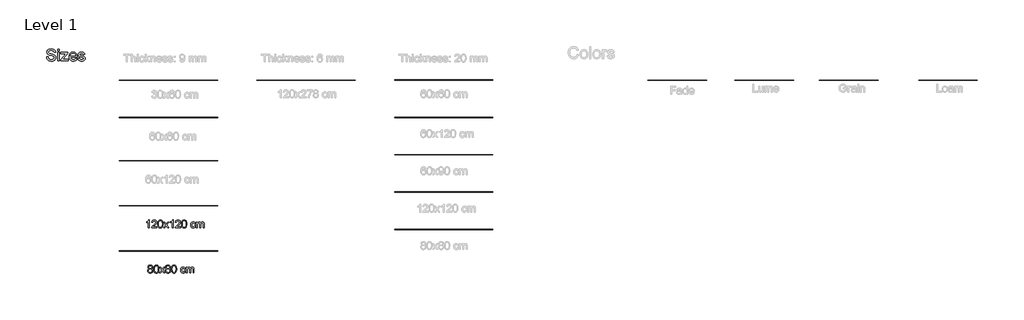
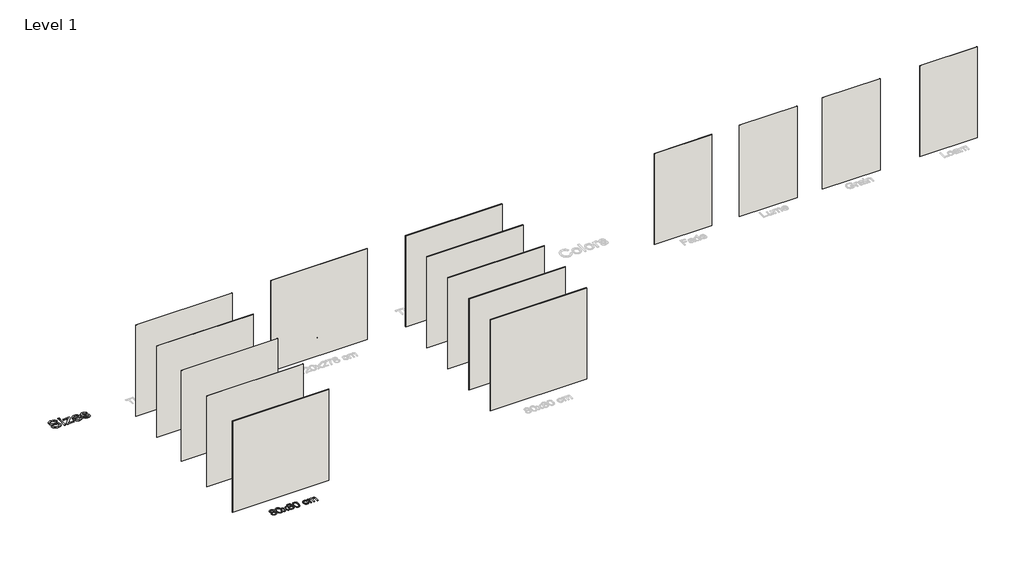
# One storey, part 1 of 7: 15 walls, 3 proxies.
"""IFC4 building model written with IfcOpenShell, lengths in millimetres."""

from ifc_helpers import new_model, si_unit, origin, origin_with_axes, place, context, project, spatial, polyline, outline, extrude, element, save

model = new_model("IFC4")

# Units and contexts
model_context = context("Model", 3, world=origin())
ifc_project = project(units=[si_unit("LENGTHUNIT", "METRE", prefix="MILLI")], contexts=[model_context])

# Site, building, storey
site = spatial("IfcSite", under=ifc_project)
building = spatial("IfcBuilding", under=site)
storey = spatial("IfcBuildingStorey", under=building, Name="Level 1", Elevation=0.0)

# Proxies
placement = place(None, origin())
element("IfcBuildingElementProxy", 1, Name="400mm Arial", ObjectType="400mm Arial", at=placement, inside=storey, context=model_context, shape_type="SweptSolid", body=[
    extrude(outline(polyline([(-14915.9447638, 3182.3518972), (-14966.1729189, 3182.3518972), (-14966.1729189, 3495.4930515), (-14987.1421926, 3478.5336915), (-15013.7523236, 3461.598857), (-15066.629229, 3436.2395248), (-15066.629229, 3483.7208277), (-15027.1800164, 3505.1806107), (-14993.003779, 3530.7116212), (-14966.0625543, 3557.8613124), (-14948.3183794, 3584.1771378), (-14915.9447638, 3584.1771378), (-14915.9447638, 3182.3518972)])), origin_with_axes(), (0.0, 0.0, 1.0), 5.0),
    extrude(outline(polyline([(-14539.2336007, 3232.5800523), (-14539.2336007, 3182.3518972), (-14802.9314149, 3182.3518972), (-14801.8277689, 3200.0347585), (-14797.5358123, 3216.9818557), (-14785.138189, 3244.0457078), (-14766.9770812, 3270.3002195), (-14740.7225695, 3297.7810046), (-14704.0447346, 3328.5236766), (-14649.8557167, 3376.6671671), (-14617.3717365, 3412.2045678), (-14601.1481405, 3441.0465162), (-14595.7402752, 3469.1036497), (-14600.8538349, 3494.2545155), (-14616.1945141, 3515.1624755), (-14639.77575, 3529.2523559), (-14669.6109798, 3533.9489827), (-14700.9422631, 3529.3627205), (-14725.2837884, 3515.6039339), (-14740.9923496, 3493.7517434), (-14746.4247404, 3464.8852695), (-14796.6528955, 3471.1637889), (-14792.3333477, 3497.0933382), (-14784.4760014, 3519.7487377), (-14773.0808566, 3539.1299875), (-14758.1479133, 3555.2370875), (-14740.020528, 3567.8983595), (-14719.0420572, 3576.9421252), (-14695.212501, 3582.3683847), (-14668.5318593, 3584.1771378), (-14641.6120943, 3582.1660496), (-14617.6537794, 3576.1327849), (-14596.6569145, 3566.0773437), (-14578.6214997, 3551.999726), (-14564.1361461, 3534.9422641), (-14553.789465, 3515.9472904), (-14547.5814563, 3495.0148049), (-14545.5121201, 3472.1448076), (-14547.7439375, 3448.1221133), (-14554.4393899, 3424.5163519), (-14566.3219783, 3400.5059204), (-14584.1152041, 3375.2692155), (-14612.478906, 3345.1396801), (-14656.0729224, 3306.4507569), (-14713.8549211, 3258.1355882), (-14736.516452, 3232.5800523), (-14539.2336007, 3232.5800523)])), origin_with_axes(), (0.0, 0.0, 1.0), 5.0),
    extrude(outline(polyline([(-14489.0054456, 3380.027156), (-14485.314363, 3444.3451914), (-14474.2411149, 3495.6402043), (-14455.8960661, 3534.6970095), (-14444.0380031, 3549.9303897), (-14430.3895811, 3562.3004218), (-14414.9048148, 3571.8714851), (-14397.5377189, 3578.7079588), (-14357.1565386, 3584.1771378), (-14326.2054, 3580.9397763), (-14298.4916231, 3571.2276916), (-14275.3150574, 3555.4210285), (-14257.9755527, 3533.8999318), (-14244.8789536, 3506.8483424), (-14234.431105, 3474.4502014), (-14227.5884999, 3433.3087316), (-14225.3076315, 3380.027156), (-14228.961926, 3316.0770025), (-14239.9248094, 3264.9046169), (-14258.1594937, 3225.8110236), (-14269.9899655, 3210.531658), (-14283.6291905, 3198.0972466), (-14299.1323509, 3188.461804), (-14316.554629, 3181.579345), (-14357.1565386, 3176.0733778), (-14384.8212646, 3178.4646108), (-14409.346731, 3185.6383097), (-14430.7329376, 3197.5944746), (-14448.9798846, 3214.3331053), (-14466.4910675, 3244.5913994), (-14478.9990554, 3282.2931726), (-14486.5038481, 3327.4384247), (-14489.0054456, 3380.027156)]), holes=[polyline([(-14438.7772906, 3380.1252578), (-14437.3057626, 3336.4607307), (-14432.8911786, 3301.116468), (-14425.5335387, 3274.0924698), (-14415.2328429, 3255.388736), (-14402.773906, 3242.6630846), (-14388.941543, 3233.5733337), (-14373.7357538, 3228.1194831), (-14357.1565386, 3226.3015329), (-14340.5773233, 3228.1256145), (-14325.3715342, 3233.5978591), (-14311.5391712, 3242.7182669), (-14299.0802343, 3255.4868379), (-14288.7795384, 3274.2212285), (-14281.4218985, 3301.2390953), (-14277.0073146, 3336.5404384), (-14275.5357866, 3380.1252578), (-14276.9582636, 3422.6340224), (-14281.2256948, 3457.3559513), (-14288.33808, 3484.2910448), (-14298.2954193, 3503.4393026), (-14310.5458898, 3516.7872877), (-14324.5376683, 3526.3215627), (-14340.270755, 3532.0421277), (-14357.7451498, 3533.9489827), (-14374.2385259, 3532.2689883), (-14389.1867976, 3527.229005), (-14402.589965, 3518.8290327), (-14414.448028, 3507.0690716), (-14425.0920803, 3486.2224252), (-14432.6949749, 3458.1162408), (-14437.2567117, 3422.7505183), (-14438.7772906, 3380.1252578)])]), origin_with_axes(), (0.0, 0.0, 1.0), 5.0),
    extrude(outline(polyline([(-14200.193554, 3182.3518972), (-14092.8701132, 3330.7800195), (-14193.9150346, 3477.4423083), (-14133.6804892, 3477.4423083), (-14084.9238621, 3406.7108633), (-14062.0661275, 3373.454331), (-14042.2495507, 3400.7266496), (-13986.7238949, 3477.4423083), (-13926.2931458, 3477.4423083), (-14032.4393642, 3330.6819177), (-13930.2172204, 3182.3518972), (-13990.5498676, 3182.3518972), (-14052.1578391, 3271.6245947), (-14063.3414518, 3288.0076062), (-14139.7628049, 3182.3518972), (-14200.193554, 3182.3518972)])), origin_with_axes(), (0.0, 0.0, 1.0), 5.0),
    extrude(outline(polyline([(-13710.469042, 3182.3518972), (-13760.6971971, 3182.3518972), (-13760.6971971, 3495.4930515), (-13781.6664708, 3478.5336915), (-13808.2766018, 3461.598857), (-13861.1535072, 3436.2395248), (-13861.1535072, 3483.7208277), (-13821.7042946, 3505.1806107), (-13787.5280572, 3530.7116212), (-13760.5868325, 3557.8613124), (-13742.8426576, 3584.1771378), (-13710.469042, 3584.1771378), (-13710.469042, 3182.3518972)])), origin_with_axes(), (0.0, 0.0, 1.0), 5.0),
    extrude(outline(polyline([(-13333.7578789, 3232.5800523), (-13333.7578789, 3182.3518972), (-13597.4556931, 3182.3518972), (-13596.3520471, 3200.0347585), (-13592.0600905, 3216.9818557), (-13579.6624672, 3244.0457078), (-13561.5013594, 3270.3002195), (-13535.2468477, 3297.7810046), (-13498.5690128, 3328.5236766), (-13444.3799949, 3376.6671671), (-13411.8960147, 3412.2045678), (-13395.6724187, 3441.0465162), (-13390.2645534, 3469.1036497), (-13395.3781131, 3494.2545155), (-13410.7187923, 3515.1624755), (-13434.3000282, 3529.2523559), (-13464.135258, 3533.9489827), (-13495.4665413, 3529.3627205), (-13519.8080666, 3515.6039339), (-13535.5166278, 3493.7517434), (-13540.9490186, 3464.8852695), (-13591.1771737, 3471.1637889), (-13586.8576259, 3497.0933382), (-13579.0002796, 3519.7487377), (-13567.6051348, 3539.1299875), (-13552.6721915, 3555.2370875), (-13534.5448062, 3567.8983595), (-13513.5663354, 3576.9421252), (-13489.7367792, 3582.3683847), (-13463.0561375, 3584.1771378), (-13436.1363725, 3582.1660496), (-13412.1780576, 3576.1327849), (-13391.1811927, 3566.0773437), (-13373.1457779, 3551.999726), (-13358.6604243, 3534.9422641), (-13348.3137432, 3515.9472904), (-13342.1057345, 3495.0148049), (-13340.0363983, 3472.1448076), (-13342.2682157, 3448.1221133), (-13348.9636681, 3424.5163519), (-13360.8462565, 3400.5059204), (-13378.6394823, 3375.2692155), (-13407.0031842, 3345.1396801), (-13450.5972006, 3306.4507569), (-13508.3791993, 3258.1355882), (-13531.0407302, 3232.5800523), (-13333.7578789, 3232.5800523)])), origin_with_axes(), (0.0, 0.0, 1.0), 5.0),
    extrude(outline(polyline([(-13283.5297238, 3380.027156), (-13279.8386412, 3444.3451914), (-13268.7653931, 3495.6402043), (-13250.4203443, 3534.6970095), (-13238.5622813, 3549.9303897), (-13224.9138593, 3562.3004218), (-13209.429093, 3571.8714851), (-13192.0619971, 3578.7079588), (-13151.6808168, 3584.1771378), (-13120.7296783, 3580.9397763), (-13093.0159013, 3571.2276916), (-13069.8393356, 3555.4210285), (-13052.4998309, 3533.8999318), (-13039.4032319, 3506.8483424), (-13028.9553832, 3474.4502014), (-13022.1127781, 3433.3087316), (-13019.8319097, 3380.027156), (-13023.4862042, 3316.0770025), (-13034.4490876, 3264.9046169), (-13052.6837719, 3225.8110236), (-13064.5142437, 3210.531658), (-13078.1534687, 3198.0972466), (-13093.6566291, 3188.461804), (-13111.0789072, 3181.579345), (-13151.6808168, 3176.0733778), (-13179.3455428, 3178.4646108), (-13203.8710092, 3185.6383097), (-13225.2572158, 3197.5944746), (-13243.5041628, 3214.3331053), (-13261.0153457, 3244.5913994), (-13273.5233336, 3282.2931726), (-13281.0281263, 3327.4384247), (-13283.5297238, 3380.027156)]), holes=[polyline([(-13233.3015688, 3380.1252578), (-13231.8300408, 3336.4607307), (-13227.4154569, 3301.116468), (-13220.0578169, 3274.0924698), (-13209.7571211, 3255.388736), (-13197.2981842, 3242.6630846), (-13183.4658212, 3233.5733337), (-13168.260032, 3228.1194831), (-13151.6808168, 3226.3015329), (-13135.1016015, 3228.1256145), (-13119.8958124, 3233.5978591), (-13106.0634494, 3242.7182669), (-13093.6045125, 3255.4868379), (-13083.3038166, 3274.2212285), (-13075.9461767, 3301.2390953), (-13071.5315928, 3336.5404384), (-13070.0600648, 3380.1252578), (-13071.4825418, 3422.6340224), (-13075.749973, 3457.3559513), (-13082.8623582, 3484.2910448), (-13092.8196975, 3503.4393026), (-13105.070168, 3516.7872877), (-13119.0619465, 3526.3215627), (-13134.7950332, 3532.0421277), (-13152.269428, 3533.9489827), (-13168.7628041, 3532.2689883), (-13183.7110758, 3527.229005), (-13197.1142432, 3518.8290327), (-13208.9723062, 3507.0690716), (-13219.6163586, 3486.2224252), (-13227.2192531, 3458.1162408), (-13231.7809899, 3422.7505183), (-13233.3015688, 3380.1252578)])]), origin_with_axes(), (0.0, 0.0, 1.0), 5.0),
    extrude(outline(polyline([(-12618.0066691, 3289.0867268), (-12567.778514, 3282.8082074), (-12573.2415617, 3259.1074098), (-12581.7825553, 3238.1350704), (-12593.401495, 3219.8911891), (-12608.0983807, 3204.375766), (-12625.2539444, 3191.9934712), (-12644.2489181, 3183.1489749), (-12665.0833018, 3177.8422771), (-12687.7570954, 3176.0733778), (-12715.9276592, 3178.5412529), (-12741.1858238, 3185.944878), (-12763.5315894, 3198.2842533), (-12782.9649557, 3215.5593786), (-12798.6949767, 3237.4452917), (-12809.930706, 3263.61703), (-12816.6721436, 3294.0745935), (-12818.9192894, 3328.8179822), (-12815.0810539, 3373.5156446), (-12803.5663475, 3412.2536187), (-12784.1912291, 3443.5358511), (-12756.7717577, 3465.8662882), (-12723.9689465, 3479.2571928), (-12688.4438085, 3483.7208277), (-12666.1593566, 3482.187986), (-12646.0024889, 3477.5894611), (-12627.9732055, 3469.9252528), (-12612.0715063, 3459.1953613), (-12598.5671713, 3445.6450412), (-12587.7299809, 3429.519547), (-12579.5599349, 3410.818879), (-12574.0570334, 3389.5430369), (-12624.2851885, 3383.2645175), (-12633.3963992, 3405.1780217), (-12647.5843815, 3420.8865829), (-12666.0643204, 3430.3411502), (-12688.051401, 3433.4926726), (-12705.1180599, 3431.9414368), (-12720.5108557, 3427.2877296), (-12734.2297884, 3419.5315509), (-12746.2748581, 3408.6729006), (-12756.0819789, 3394.4603929), (-12763.0870653, 3376.6426416), (-12767.2901171, 3355.2196468), (-12768.6911343, 3330.1914083), (-12763.2096926, 3283.1147757), (-12756.3578904, 3265.1774627), (-12746.7653674, 3250.9741521), (-12734.9594211, 3240.1798812), (-12721.4673489, 3232.4696877), (-12706.2891509, 3227.8435716), (-12689.4248271, 3226.3015329), (-12663.41557, 3230.1520311), (-12642.0906771, 3241.7035258), (-12626.5783196, 3261.2503224), (-12618.0066691, 3289.0867268)])), origin_with_axes(), (0.0, 0.0, 1.0), 5.0),
    extrude(outline(polyline([(-12523.8288783, 3182.3518972), (-12523.8288783, 3477.4423083), (-12473.6007233, 3477.4423083), (-12473.6007233, 3428.8818849), (-12458.493036, 3451.1877966), (-12439.0688667, 3468.6621913), (-12415.9904028, 3479.9561686), (-12389.9198321, 3483.7208277), (-12361.9853259, 3479.8825922), (-12339.5935752, 3468.3678857), (-12322.8672071, 3449.9369978), (-12311.9288491, 3425.3502178), (-12293.6205885, 3450.8873596), (-12272.7371539, 3469.1281752), (-12249.2785453, 3480.0726645), (-12223.2447628, 3483.7208277), (-12203.1369461, 3482.2033144), (-12185.4878074, 3477.6507747), (-12170.2973467, 3470.0632086), (-12157.5655639, 3459.440616), (-12147.5009257, 3445.6603696), (-12140.3118984, 3428.5998421), (-12135.998482, 3408.2590334), (-12134.5606765, 3384.6379436), (-12134.5606765, 3182.3518972), (-12184.7888316, 3182.3518972), (-12184.7888316, 3363.0555332), (-12185.9537912, 3388.1082971), (-12189.4486702, 3404.9940807), (-12195.9969697, 3416.5578381), (-12206.322191, 3425.6445234), (-12219.6027311, 3431.5306353), (-12235.0169867, 3433.4926726), (-12262.2279916, 3428.464952), (-12284.4112759, 3413.3817902), (-12293.0166489, 3401.8119014), (-12299.1633439, 3387.2131176), (-12304.0806999, 3348.9288646), (-12304.0806999, 3182.3518972), (-12354.308855, 3182.3518972), (-12354.308855, 3368.6473396), (-12357.2151227, 3397.0478296), (-12365.933926, 3417.3058648), (-12381.2746052, 3429.4459706), (-12404.0465007, 3433.4926726), (-12423.3970937, 3430.7948713), (-12441.2271077, 3422.7014674), (-12455.9423875, 3409.4086646), (-12465.9487778, 3391.1126667), (-12471.6877369, 3365.7288091), (-12473.6007233, 3331.172427), (-12473.6007233, 3182.3518972), (-12523.8288783, 3182.3518972)])), origin_with_axes(), (0.0, 0.0, 1.0), 5.0),
])
element("IfcBuildingElementProxy", 2, Name="400mm Arial", ObjectType="400mm Arial", at=placement, inside=storey, context=model_context, shape_type="SweptSolid", body=[
    extrude(outline(polyline([(-14931.1163537, 1107.6697055), (-14958.0085276, 1120.9134573), (-14976.8808739, 1138.8660987), (-14988.0276984, 1161.1597476), (-14991.7433065, 1187.4265221), (-14989.7199556, 1207.9114178), (-14983.6499026, 1226.6917937), (-14973.5331478, 1243.7676496), (-14959.369691, 1259.1389857), (-14941.8401139, 1271.8431772), (-14921.6249983, 1280.9175998), (-14898.7243441, 1286.3622533), (-14873.1381513, 1288.1771378), (-14847.4293312, 1286.3193337), (-14824.3569987, 1280.7459215), (-14803.9211539, 1271.4569011), (-14786.1217967, 1258.4522726), (-14771.7008225, 1242.7804996), (-14761.4001266, 1225.4900458), (-14755.2197091, 1206.5809113), (-14753.1595699, 1186.053096), (-14756.8261272, 1160.6324501), (-14767.8257988, 1138.7189459), (-14786.2812122, 1120.8766691), (-14812.3149948, 1107.6697055), (-14781.4006444, 1091.7404151), (-14758.8985291, 1068.2818066), (-14745.1765306, 1038.4220513), (-14740.6025312, 1003.2893208), (-14742.8711368, 978.2365569), (-14749.6769537, 955.2684576), (-14761.0199819, 934.3850231), (-14776.9002214, 915.5862531), (-14796.4838062, 900.0493702), (-14818.9368707, 888.9515966), (-14844.2594147, 882.2929325), (-14872.4514382, 880.0733778), (-14900.6434618, 882.3021296), (-14925.9660058, 888.9883848), (-14948.4190702, 900.1321436), (-14968.0026551, 915.7334059), (-14983.8828946, 934.6640002), (-14995.2259228, 955.7957552), (-15002.0317397, 979.1286707), (-15004.3003453, 1004.6627469), (-14999.5424048, 1041.1566408), (-14985.2685834, 1071.1758116), (-14962.2146451, 1093.6901897), (-14931.1163537, 1107.6697055)]), holes=[polyline([(-14941.5151515, 1185.9549941), (-14937.0637793, 1164.0292272), (-14923.7096629, 1146.5180442), (-14901.8452097, 1135.040126), (-14871.862827, 1131.2141532), (-14842.5794202, 1135.0156005), (-14821.0460608, 1146.4199423), (-14807.802309, 1163.3425141), (-14803.387725, 1183.6986512), (-14807.9494618, 1204.8273404), (-14821.634672, 1222.3017352), (-14843.462337, 1234.0371709), (-14872.4514382, 1237.9489827), (-14901.6244805, 1234.12301), (-14923.4153573, 1222.6450917), (-14936.9902029, 1205.8206218), (-14941.5151515, 1185.9549941)]), polyline([(-14954.0721902, 1006.4285804), (-14951.9752629, 987.2128776), (-14945.6844807, 968.6103113), (-14934.0716724, 952.3867154), (-14916.0086665, 940.3079232), (-14894.3772052, 932.8031305), (-14872.0590308, 930.3015329), (-14837.8705307, 935.5622454), (-14823.976854, 942.1381361), (-14812.2168929, 951.344383), (-14796.1772379, 975.24445), (-14790.8306862, 1004.8589506), (-14796.3489162, 1034.9762233), (-14812.903606, 1059.4035877), (-14824.9823981, 1068.8458923), (-14839.1458549, 1075.5903955), (-14873.7267625, 1080.9859981), (-14907.437016, 1075.6639719), (-14921.1743428, 1069.0114392), (-14932.8331364, 1059.6978933), (-14948.7624268, 1035.7365127), (-14954.0721902, 1006.4285804)])]), origin_with_axes(), (0.0, 0.0, 1.0), 5.0),
    extrude(outline(polyline([(-14696.6528955, 1084.027156), (-14692.9618128, 1148.3451914), (-14681.8885647, 1199.6402043), (-14663.5435159, 1238.6970095), (-14651.6854529, 1253.9303897), (-14638.0370309, 1266.3004218), (-14622.5522646, 1275.8714851), (-14605.1851687, 1282.7079588), (-14564.8039884, 1288.1771378), (-14533.8528499, 1284.9397763), (-14506.1390729, 1275.2276916), (-14482.9625072, 1259.4210285), (-14465.6230025, 1237.8999318), (-14452.5264035, 1210.8483424), (-14442.0785548, 1178.4502014), (-14435.2359497, 1137.3087316), (-14432.9550813, 1084.027156), (-14436.6093758, 1020.0770025), (-14447.5722593, 968.9046169), (-14465.8069435, 929.8110236), (-14477.6374153, 914.531658), (-14491.2766403, 902.0972466), (-14506.7798007, 892.461804), (-14524.2020789, 885.579345), (-14564.8039884, 880.0733778), (-14592.4687144, 882.4646108), (-14616.9941808, 889.6383097), (-14638.3803874, 901.5944746), (-14656.6273344, 918.3331053), (-14674.1385174, 948.5913994), (-14686.6465052, 986.2931726), (-14694.1512979, 1031.4384247), (-14696.6528955, 1084.027156)]), holes=[polyline([(-14646.4247404, 1084.1252578), (-14644.9532124, 1040.4607307), (-14640.5386285, 1005.116468), (-14633.1809886, 978.0924698), (-14622.8802927, 959.388736), (-14610.4213558, 946.6630846), (-14596.5889928, 937.5733337), (-14581.3832037, 932.1194831), (-14564.8039884, 930.3015329), (-14548.2247732, 932.1256145), (-14533.018984, 937.5978591), (-14519.186621, 946.7182669), (-14506.7276841, 959.4868379), (-14496.4269882, 978.2212285), (-14489.0693483, 1005.2390953), (-14484.6547644, 1040.5404384), (-14483.1832364, 1084.1252578), (-14484.6057135, 1126.6340224), (-14488.8731446, 1161.3559513), (-14495.9855298, 1188.2910448), (-14505.9428692, 1207.4393026), (-14518.1933396, 1220.7872877), (-14532.1851182, 1230.3215627), (-14547.9182048, 1236.0421277), (-14565.3925996, 1237.9489827), (-14581.8859757, 1236.2689883), (-14596.8342475, 1231.229005), (-14610.2374148, 1222.8290327), (-14622.0954778, 1211.0690716), (-14632.7395302, 1190.2224252), (-14640.3424247, 1162.1162408), (-14644.9041615, 1126.7505183), (-14646.4247404, 1084.1252578)])]), origin_with_axes(), (0.0, 0.0, 1.0), 5.0),
    extrude(outline(polyline([(-14407.8410038, 886.3518972), (-14300.5175631, 1034.7800195), (-14401.5624844, 1181.4423083), (-14341.3279391, 1181.4423083), (-14292.571312, 1110.7108633), (-14269.7135773, 1077.454331), (-14249.8970005, 1104.7266496), (-14194.3713447, 1181.4423083), (-14133.9405957, 1181.4423083), (-14240.086814, 1034.6819177), (-14137.8646703, 886.3518972), (-14198.1973175, 886.3518972), (-14259.8052889, 975.6245947), (-14270.9889016, 992.0076062), (-14347.4102547, 886.3518972), (-14407.8410038, 886.3518972)])), origin_with_axes(), (0.0, 0.0, 1.0), 5.0),
    extrude(outline(polyline([(-14033.2880818, 1107.6697055), (-14060.1802556, 1120.9134573), (-14079.052602, 1138.8660987), (-14090.1994264, 1161.1597476), (-14093.9150346, 1187.4265221), (-14091.8916836, 1207.9114178), (-14085.8216307, 1226.6917937), (-14075.7048758, 1243.7676496), (-14061.541419, 1259.1389857), (-14044.0118419, 1271.8431772), (-14023.7967263, 1280.9175998), (-14000.8960721, 1286.3622533), (-13975.3098793, 1288.1771378), (-13949.6010592, 1286.3193337), (-13926.5287268, 1280.7459215), (-13906.0928819, 1271.4569011), (-13888.2935247, 1258.4522726), (-13873.8725505, 1242.7804996), (-13863.5718547, 1225.4900458), (-13857.3914371, 1206.5809113), (-13855.331298, 1186.053096), (-13858.9978552, 1160.6324501), (-13869.9975268, 1138.7189459), (-13888.4529403, 1120.8766691), (-13914.4867228, 1107.6697055), (-13883.5723725, 1091.7404151), (-13861.0702571, 1068.2818066), (-13847.3482587, 1038.4220513), (-13842.7742592, 1003.2893208), (-13845.0428648, 978.2365569), (-13851.8486818, 955.2684576), (-13863.1917099, 934.3850231), (-13879.0719494, 915.5862531), (-13898.6555343, 900.0493702), (-13921.1085987, 888.9515966), (-13946.4311427, 882.2929325), (-13974.6231663, 880.0733778), (-14002.8151898, 882.3021296), (-14028.1377338, 888.9883848), (-14050.5907983, 900.1321436), (-14070.1743832, 915.7334059), (-14086.0546226, 934.6640002), (-14097.3976508, 955.7957552), (-14104.2034677, 979.1286707), (-14106.4720733, 1004.6627469), (-14101.7141329, 1041.1566408), (-14087.4403115, 1071.1758116), (-14064.3863731, 1093.6901897), (-14033.2880818, 1107.6697055)]), holes=[polyline([(-14043.6868795, 1185.9549941), (-14039.2355074, 1164.0292272), (-14025.8813909, 1146.5180442), (-14004.0169377, 1135.040126), (-13974.0345551, 1131.2141532), (-13944.7511483, 1135.0156005), (-13923.2177888, 1146.4199423), (-13909.974037, 1163.3425141), (-13905.559453, 1183.6986512), (-13910.1211898, 1204.8273404), (-13923.8064, 1222.3017352), (-13945.6340651, 1234.0371709), (-13974.6231663, 1237.9489827), (-14003.7962085, 1234.12301), (-14025.5870853, 1222.6450917), (-14039.161931, 1205.8206218), (-14043.6868795, 1185.9549941)]), polyline([(-14056.2439183, 1006.4285804), (-14054.1469909, 987.2128776), (-14047.8562088, 968.6103113), (-14036.2434005, 952.3867154), (-14018.1803945, 940.3079232), (-13996.5489332, 932.8031305), (-13974.2307588, 930.3015329), (-13940.0422587, 935.5622454), (-13926.148582, 942.1381361), (-13914.3886209, 951.344383), (-13898.3489659, 975.24445), (-13893.0024143, 1004.8589506), (-13898.5206442, 1034.9762233), (-13915.075334, 1059.4035877), (-13927.1541262, 1068.8458923), (-13941.317583, 1075.5903955), (-13975.8984905, 1080.9859981), (-14009.608744, 1075.6639719), (-14023.3460709, 1069.0114392), (-14035.0048644, 1059.6978933), (-14050.9341548, 1035.7365127), (-14056.2439183, 1006.4285804)])]), origin_with_axes(), (0.0, 0.0, 1.0), 5.0),
    extrude(outline(polyline([(-13798.8246235, 1084.027156), (-13795.1335408, 1148.3451914), (-13784.0602928, 1199.6402043), (-13765.7152439, 1238.6970095), (-13753.857181, 1253.9303897), (-13740.208759, 1266.3004218), (-13724.7239926, 1275.8714851), (-13707.3568968, 1282.7079588), (-13666.9757164, 1288.1771378), (-13636.0245779, 1284.9397763), (-13608.3108009, 1275.2276916), (-13585.1342353, 1259.4210285), (-13567.7947305, 1237.8999318), (-13554.6981315, 1210.8483424), (-13544.2502829, 1178.4502014), (-13537.4076777, 1137.3087316), (-13535.1268094, 1084.027156), (-13538.7811039, 1020.0770025), (-13549.7439873, 968.9046169), (-13567.9786715, 929.8110236), (-13579.8091434, 914.531658), (-13593.4483683, 902.0972466), (-13608.9515288, 892.461804), (-13626.3738069, 885.579345), (-13666.9757164, 880.0733778), (-13694.6404425, 882.4646108), (-13719.1659088, 889.6383097), (-13740.5521155, 901.5944746), (-13758.7990624, 918.3331053), (-13776.3102454, 948.5913994), (-13788.8182332, 986.2931726), (-13796.3230259, 1031.4384247), (-13798.8246235, 1084.027156)]), holes=[polyline([(-13748.5964684, 1084.1252578), (-13747.1249405, 1040.4607307), (-13742.7103565, 1005.116468), (-13735.3527166, 978.0924698), (-13725.0520207, 959.388736), (-13712.5930838, 946.6630846), (-13698.7607208, 937.5733337), (-13683.5549317, 932.1194831), (-13666.9757164, 930.3015329), (-13650.3965012, 932.1256145), (-13635.1907121, 937.5978591), (-13621.358349, 946.7182669), (-13608.8994121, 959.4868379), (-13598.5987163, 978.2212285), (-13591.2410764, 1005.2390953), (-13586.8264924, 1040.5404384), (-13585.3549644, 1084.1252578), (-13586.7774415, 1126.6340224), (-13591.0448726, 1161.3559513), (-13598.1572579, 1188.2910448), (-13608.1145972, 1207.4393026), (-13620.3650677, 1220.7872877), (-13634.3568462, 1230.3215627), (-13650.0899329, 1236.0421277), (-13667.5643276, 1237.9489827), (-13684.0577038, 1236.2689883), (-13699.0059755, 1231.229005), (-13712.4091428, 1222.8290327), (-13724.2672058, 1211.0690716), (-13734.9112582, 1190.2224252), (-13742.5141528, 1162.1162408), (-13747.0758895, 1126.7505183), (-13748.5964684, 1084.1252578)])]), origin_with_axes(), (0.0, 0.0, 1.0), 5.0),
    extrude(outline(polyline([(-13133.3015688, 993.0867268), (-13083.0734137, 986.8082074), (-13088.5364613, 963.1074098), (-13097.077455, 942.1350704), (-13108.6963947, 923.8911891), (-13123.3932804, 908.375766), (-13140.5488441, 895.9934712), (-13159.5438178, 887.1489749), (-13180.3782014, 881.8422771), (-13203.0519951, 880.0733778), (-13231.2225588, 882.5412529), (-13256.4807235, 889.944878), (-13278.826489, 902.2842533), (-13298.2598554, 919.5593786), (-13313.9898764, 941.4452917), (-13325.2256057, 967.61703), (-13331.9670432, 998.0745935), (-13334.2141891, 1032.8179822), (-13330.3759536, 1077.5156446), (-13318.8612471, 1116.2536187), (-13299.4861287, 1147.5358511), (-13272.0666574, 1169.8662882), (-13239.2638461, 1183.2571928), (-13203.7387081, 1187.7208277), (-13181.4542563, 1186.187986), (-13161.2973886, 1181.5894611), (-13143.2681052, 1173.9252528), (-13127.3664059, 1163.1953613), (-13113.862071, 1149.6450412), (-13103.0248806, 1133.519547), (-13094.8548346, 1114.818879), (-13089.3519331, 1093.5430369), (-13139.5800882, 1087.2645175), (-13148.6912989, 1109.1780217), (-13162.8792812, 1124.8865829), (-13181.3592201, 1134.3411502), (-13203.3463007, 1137.4926726), (-13220.4129595, 1135.9414368), (-13235.8057554, 1131.2877296), (-13249.5246881, 1123.5315509), (-13261.5697578, 1112.6729006), (-13271.3768786, 1098.4603929), (-13278.3819649, 1080.6426416), (-13282.5850167, 1059.2196468), (-13283.986034, 1034.1914083), (-13278.5045923, 987.1147757), (-13271.6527901, 969.1774627), (-13262.0602671, 954.9741521), (-13250.2543207, 944.1798812), (-13236.7622486, 936.4696877), (-13221.5840506, 931.8435716), (-13204.7197268, 930.3015329), (-13178.7104697, 934.1520311), (-13157.3855767, 945.7035258), (-13141.8732193, 965.2503224), (-13133.3015688, 993.0867268)])), origin_with_axes(), (0.0, 0.0, 1.0), 5.0),
    extrude(outline(polyline([(-13039.123778, 886.3518972), (-13039.123778, 1181.4423083), (-12988.8956229, 1181.4423083), (-12988.8956229, 1132.8818849), (-12973.7879357, 1155.1877966), (-12954.3637663, 1172.6621913), (-12931.2853025, 1183.9561686), (-12905.2147318, 1187.7208277), (-12877.2802256, 1183.8825922), (-12854.8884748, 1172.3678857), (-12838.1621068, 1153.9369978), (-12827.2237488, 1129.3502178), (-12808.9154882, 1154.8873596), (-12788.0320536, 1173.1281752), (-12764.573445, 1184.0726645), (-12738.5396625, 1187.7208277), (-12718.4318458, 1186.2033144), (-12700.782707, 1181.6507747), (-12685.5922463, 1174.0632086), (-12672.8604636, 1163.440616), (-12662.7958254, 1149.6603696), (-12655.606798, 1132.5998421), (-12651.2933816, 1112.2590334), (-12649.8555762, 1088.6379436), (-12649.8555762, 886.3518972), (-12700.0837313, 886.3518972), (-12700.0837313, 1067.0555332), (-12701.2486909, 1092.1082971), (-12704.7435699, 1108.9940807), (-12711.2918694, 1120.5578381), (-12721.6170907, 1129.6445234), (-12734.8976307, 1135.5306353), (-12750.3118863, 1137.4926726), (-12777.5228912, 1132.464952), (-12799.7061755, 1117.3817902), (-12808.3115486, 1105.8119014), (-12814.4582436, 1091.2131176), (-12819.3755996, 1052.9288646), (-12819.3755996, 886.3518972), (-12869.6037546, 886.3518972), (-12869.6037546, 1072.6473396), (-12872.5100224, 1101.0478296), (-12881.2288257, 1121.3058648), (-12896.5695049, 1133.4459706), (-12919.3414004, 1137.4926726), (-12938.6919933, 1134.7948713), (-12956.5220074, 1126.7014674), (-12971.2372872, 1113.4086646), (-12981.2436774, 1095.1126667), (-12986.9826366, 1069.7288091), (-12988.8956229, 1035.172427), (-12988.8956229, 886.3518972), (-13039.123778, 886.3518972)])), origin_with_axes(), (0.0, 0.0, 1.0), 5.0),
])
element("IfcBuildingElementProxy", 3, Name="600mm Arial", ObjectType="600mm Arial", at=placement, inside=storey, context=model_context, shape_type="SweptSolid", body=[
    extrude(outline(polyline([(-20153.6818115, 11886.1060003), (-20078.3395788, 11886.1060003), (-20069.694352, 11844.2962116), (-20054.0593672, 11810.6901913), (-20029.6687909, 11784.0187467), (-19994.7567895, 11763.0126847), (-19952.0824781, 11749.3826568), (-19904.4049715, 11744.8393142), (-19862.4296359, 11748.2790108), (-19825.6782246, 11758.5981008), (-19795.8981771, 11774.9320614), (-19774.8369328, 11796.4163699), (-19762.3105509, 11821.0828577), (-19758.1350902, 11846.963356), (-19761.2620872, 11872.1816668), (-19770.6430781, 11893.978675), (-19789.6993654, 11912.5751099), (-19821.8522518, 11928.1917006), (-19931.5546628, 11956.9600726), (-20003.5675633, 11975.9979658), (-20049.6447832, 11994.1161541), (-20087.1503526, 12019.4632236), (-20113.7298268, 12050.1813702), (-20129.5671467, 12085.6084063), (-20134.8462533, 12125.0821444), (-20133.213777, 12147.5183476), (-20128.3163479, 12169.2095897), (-20120.1539661, 12190.1558708), (-20108.7266317, 12210.3571909), (-20094.1631032, 12228.9904139), (-20076.5921394, 12245.232404), (-20056.0137403, 12259.0831611), (-20032.4279059, 12270.5426853), (-19979.4161103, 12285.9385468), (-19920.7389321, 12291.0705006), (-19857.1689233, 12285.6994235), (-19801.5451657, 12269.5861921), (-19777.2097717, 12257.584042), (-19755.8542219, 12243.0619002), (-19737.4785162, 12226.0197668), (-19722.0826547, 12206.4576417), (-19709.786199, 12184.945742), (-19700.7087108, 12162.0542849), (-19694.85019, 12137.7832703), (-19692.2106367, 12112.1326982), (-19767.5528693, 12112.1326982), (-19772.5928527, 12136.1737865), (-19781.3852323, 12157.087878), (-19793.9300084, 12174.8749724), (-19810.2271808, 12189.5350699), (-19830.5802521, 12200.9945941), (-19855.2927252, 12209.1799685), (-19884.3645998, 12214.0911931), (-19917.7958762, 12215.728268), (-19952.2940103, 12214.1095872), (-19981.7705551, 12209.2535449), (-20006.2255107, 12201.160141), (-20025.6588771, 12189.8293755), (-20040.4661274, 12176.2085447), (-20051.0427348, 12161.2449445), (-20057.3886992, 12144.9385751), (-20059.5040207, 12127.2894364), (-20058.0049016, 12112.105107), (-20053.5075442, 12098.3371233), (-20046.0119485, 12085.9854853), (-20035.5181146, 12075.050193), (-20019.000213, 12064.6943149), (-19992.990956, 12054.2280721), (-19912.4983754, 12032.9644928), (-19829.4306209, 12012.7677713), (-19779.1779404, 11995.1462237), (-19736.2277174, 11967.8125914), (-19719.6224439, 11951.7453453), (-19706.2637289, 11934.0778125), (-19695.9952227, 11914.9019635), (-19688.6605755, 11894.3097688), (-19682.7928576, 11848.8763424), (-19684.4805163, 11825.3089021), (-19689.5434922, 11802.4312405), (-19697.9817855, 11780.2433577), (-19709.7953961, 11758.7452536), (-19724.7773903, 11738.7692612), (-19742.7208346, 11721.1477137), (-19763.625729, 11705.8806109), (-19787.4920735, 11692.9679528), (-19813.6254907, 11682.6994467), (-19841.3316035, 11675.3647994), (-19901.4619156, 11669.4970816), (-19940.0021531, 11671.0789741), (-19975.2774379, 11675.8246519), (-20007.28777, 11683.7341148), (-20036.0331494, 11694.8073628), (-20061.68832, 11709.0627901), (-20084.4280259, 11726.5187908), (-20104.2522669, 11747.1753648), (-20121.1610431, 11771.0325122), (-20134.781874, 11797.3176808), (-20144.742279, 11825.2583183), (-20151.0422581, 11854.8544248), (-20153.6818115, 11886.1060003)])), origin_with_axes(), (0.0, 0.0, 1.0), 5.0),
    extrude(outline(polyline([(-19579.1972878, 12206.3104889), (-19579.1972878, 12281.6527215), (-19503.8550552, 12281.6527215), (-19503.8550552, 12206.3104889), (-19579.1972878, 12206.3104889)])), origin_with_axes(), (0.0, 0.0, 1.0), 5.0),
    extrude(outline(polyline([(-19579.1972878, 11678.9148606), (-19579.1972878, 12121.5504772), (-19503.8550552, 12121.5504772), (-19503.8550552, 11678.9148606), (-19579.1972878, 11678.9148606)])), origin_with_axes(), (0.0, 0.0, 1.0), 5.0),
    extrude(outline(polyline([(-19437.9306016, 11678.9148606), (-19437.9306016, 11749.8425093), (-19177.9116075, 12046.2082446), (-19254.8725208, 12046.2082446), (-19419.0950435, 12046.2082446), (-19419.0950435, 12121.5504772), (-19070.6372177, 12121.5504772), (-19070.6372177, 12057.5390101), (-19301.2256522, 11794.5769599), (-19336.5423238, 11754.2570932), (-19249.4278673, 11754.2570932), (-19061.2194386, 11754.2570932), (-19061.2194386, 11678.9148606), (-19437.9306016, 11678.9148606)])), origin_with_axes(), (0.0, 0.0, 1.0), 5.0),
    extrude(outline(polyline([(-18675.9734132, 11810.7637677), (-18602.1027086, 11801.3459886), (-18613.4288755, 11771.7590792), (-18628.718971, 11745.6854428), (-18647.9729949, 11723.1250794), (-18671.1909473, 11704.0779891), (-18698.1337049, 11688.9488421), (-18728.5621444, 11678.1423084), (-18762.4762659, 11671.6583883), (-18799.8760692, 11669.4970816), (-18846.6246737, 11673.2264853), (-18888.2781127, 11684.4146965), (-18924.8363859, 11703.0617151), (-18956.2994936, 11729.1675412), (-18981.6005778, 11762.0056078), (-18999.6727808, 11800.8493479), (-19010.5161026, 11845.6987617), (-19014.1305432, 11896.553849), (-19010.4793144, 11949.1333831), (-18999.525628, 11995.4773175), (-18981.269484, 12035.585652), (-18955.7108824, 12069.4583867), (-18924.3305482, 12096.3689547), (-18888.6092064, 12115.5907889), (-18848.5468572, 12127.1238895), (-18804.1435004, 12130.9682563), (-18761.1702848, 12127.1330865), (-18722.3081505, 12115.6275771), (-18687.5570976, 12096.4517281), (-18656.9171259, 12069.6055395), (-18631.9057487, 12035.8063812), (-18614.0404793, 11995.7716231), (-18603.3213177, 11949.5012651), (-18599.7482638, 11896.9953074), (-18600.1897222, 11876.6882212), (-18938.7883106, 11876.6882212), (-18934.4243104, 11846.6230652), (-18925.7468939, 11820.2919114), (-18912.7560609, 11797.6947598), (-18895.4518116, 11778.8316105), (-18874.790639, 11763.9599809), (-18851.7290364, 11753.3373883), (-18826.2670038, 11746.9638327), (-18798.4045412, 11744.8393142), (-18758.3054038, 11748.7756515), (-18724.5338366, 11760.5846636), (-18697.0898398, 11781.0021143), (-18675.9734132, 11810.7637677)]), holes=[polyline([(-18938.7883106, 11952.0304539), (-18675.0904964, 11952.0304539), (-18685.2808277, 11991.8352857), (-18694.0456162, 12007.4886646), (-18705.2568201, 12020.3093522), (-18725.8030295, 12035.760396), (-18749.1819303, 12046.7968558), (-18775.3935224, 12053.4187317), (-18804.437806, 12055.6260237), (-18830.9299081, 12053.8647886), (-18855.2239154, 12048.5810835), (-18877.3198277, 12039.7749082), (-18897.2176451, 12027.4462629), (-18913.9148892, 12012.1653645), (-18926.4090815, 11994.5024302), (-18934.7002219, 11974.45746), (-18938.7883106, 11952.0304539)])]), origin_with_axes(), (0.0, 0.0, 1.0), 5.0),
    extrude(outline(polyline([(-18552.6593685, 11810.7637677), (-18477.3171358, 11820.1815468), (-18472.7645961, 11803.0014576), (-18465.4345474, 11787.955084), (-18455.3269896, 11775.042426), (-18442.4419227, 11764.2634835), (-18426.7425586, 11755.7654094), (-18408.1921089, 11749.6953565), (-18362.5379533, 11744.8393142), (-18317.4356207, 11749.2906863), (-18299.9060437, 11754.8549015), (-18285.7241928, 11762.6448027), (-18266.962211, 11781.9953957), (-18262.2717156, 11792.8295204), (-18260.7082171, 11804.4361974), (-18262.2809126, 11814.6081346), (-18266.9989992, 11823.6396375), (-18285.8713455, 11838.2813409), (-18314.0878946, 11847.8462728), (-18363.4208701, 11859.7656495), (-18432.178015, 11879.6496713), (-18476.8756774, 11896.6274254), (-18505.5888672, 11915.1502838), (-18526.392594, 11939.6696188), (-18539.0293405, 11968.6219318), (-18543.2415894, 12000.4437244), (-18539.857075, 12029.6351607), (-18529.703532, 12056.5825169), (-18513.7006652, 12080.2189351), (-18492.7681796, 12099.4775575), (-18471.9644528, 12111.5992693), (-18444.8699439, 12121.7712064), (-18413.544792, 12128.6689938), (-18380.0491363, 12130.9682563), (-18331.0104664, 12127.2710423), (-18288.3729431, 12116.1794001), (-18254.0863412, 12098.7785817), (-18230.1004351, 12076.153839), (-18214.2079329, 12046.6313089), (-18204.2015426, 12008.5371283), (-18279.5437752, 11999.1193492), (-18289.0535248, 12022.8293438), (-18307.8706889, 12040.6900147), (-18336.1792084, 12051.8920214), (-18374.1630244, 12055.6260237), (-18417.425947, 12052.0575683), (-18446.2678954, 12041.3522023), (-18462.4914914, 12025.9011585), (-18467.8993568, 12008.0956699), (-18465.6552766, 11996.5073871), (-18458.9230361, 11986.169903), (-18447.4083296, 11976.9360649), (-18430.8168516, 11969.5416368), (-18365.9224677, 11953.5019818), (-18255.33714, 11918.0381575), (-18226.1273095, 11901.0787975), (-18203.9808134, 11877.8654436), (-18190.0196917, 11848.3245194), (-18185.3659845, 11812.3824485), (-18190.8290321, 11775.226367), (-18207.218175, 11740.2775774), (-18233.9080137, 11710.2768007), (-18270.273149, 11687.9647577), (-18314.1982592, 11674.1140006), (-18363.5680229, 11669.4970816), (-18404.1178158, 11671.7227676), (-18439.5356549, 11678.3998258), (-18469.8215402, 11689.5282562), (-18494.9754716, 11705.1080587), (-18515.521681, 11725.0656569), (-18531.9844003, 11749.3274745), (-18544.3636295, 11777.8935114), (-18552.6593685, 11810.7637677)])), origin_with_axes(), (0.0, 0.0, 1.0), 5.0),
])

# Walls
element("IfcWall", 4, ObjectType="Ceramiche Caesar - Hold - Loam - 60x120 - 9 mm - Matt", at=placement, inside=storey, context=model_context, shape_type="SweptSolid", body=[
    extrude(outline(polyline([(27223.1644668, 10698.8255368), (24223.1644668, 10698.8255368), (24223.1644668, 10707.8255368), (27223.1644668, 10707.8255368), (27223.1644668, 10698.8255368)])), origin_with_axes(), (0.0, 0.0, 1.0), 5000.0),
])
element("IfcWall", 5, ObjectType="Ceramiche Caesar - Hold - Grain - 120x278 - 6 mm - Silk", at=placement, inside=storey, context=model_context, shape_type="SweptSolid", body=[
    extrude(outline(polyline([(-4443.7333503, 10701.8255368), (-9443.7333503, 10701.8255368), (-9443.7333503, 10707.8255368), (-4443.7333503, 10707.8255368), (-4443.7333503, 10701.8255368)])), origin_with_axes(), (0.0, 0.0, 1.0), 5000.0),
])
element("IfcWall", 6, ObjectType="Ceramiche Caesar - Hold - Fade - 60x60 - 20 mm - AExtra20", at=placement, inside=storey, context=model_context, shape_type="SweptSolid", body=[
    extrude(outline(polyline([(2556.2666497, 10694.8255368), (-2443.7333503, 10694.8255368), (-2443.7333503, 10714.8255368), (2556.2666497, 10714.8255368), (2556.2666497, 10694.8255368)])), origin_with_axes(), (0.0, 0.0, 1.0), 5000.0),
])
element("IfcWall", 7, ObjectType="Ceramiche Caesar - Hold - Fade - 30x60 - 9 mm - Matt", at=placement, inside=storey, context=model_context, shape_type="SweptSolid", body=[
    extrude(outline(polyline([(-11443.7333503, 10698.8255368), (-16443.7333503, 10698.8255368), (-16443.7333503, 10707.8255368), (-11443.7333503, 10707.8255368), (-11443.7333503, 10698.8255368)])), origin_with_axes(), (0.0, 0.0, 1.0), 5000.0),
])
element("IfcWall", 8, ObjectType="Ceramiche Caesar - Hold - Fade - 120x120 - 9 mm - Matt", at=placement, inside=storey, context=model_context, shape_type="SweptSolid", body=[
    extrude(outline(polyline([(-11443.7333503, 4298.8255368), (-16443.7333503, 4298.8255368), (-16443.7333503, 4307.8255368), (-11443.7333503, 4307.8255368), (-11443.7333503, 4298.8255368)])), origin_with_axes(), (0.0, 0.0, 1.0), 5000.0),
])
element("IfcWall", 9, ObjectType="Ceramiche Caesar - Hold - Grain - 60x120 - 20 mm - AExtra20", at=placement, inside=storey, context=model_context, shape_type="SweptSolid", body=[
    extrude(outline(polyline([(2556.2666497, 8794.8255368), (-2443.7333503, 8794.8255368), (-2443.7333503, 8814.8255368), (2556.2666497, 8814.8255368), (2556.2666497, 8794.8255368)])), origin_with_axes(), (0.0, 0.0, 1.0), 5000.0),
])
element("IfcWall", 10, ObjectType="Ceramiche Caesar - Hold - Loam - 60x60 - 9 mm - Matt", at=placement, inside=storey, context=model_context, shape_type="SweptSolid", body=[
    extrude(outline(polyline([(-11443.7333503, 8794.8255368), (-16443.7333503, 8794.8255368), (-16443.7333503, 8803.8255368), (-11443.7333503, 8803.8255368), (-11443.7333503, 8794.8255368)])), origin_with_axes(), (0.0, 0.0, 1.0), 5000.0),
])
element("IfcWall", 11, ObjectType="Ceramiche Caesar - Hold - Lume - 60x120 - 9 mm - Matt", at=placement, inside=storey, context=model_context, shape_type="SweptSolid", body=[
    extrude(outline(polyline([(-11443.7333503, 6594.8255368), (-16443.7333503, 6594.8255368), (-16443.7333503, 6603.8255368), (-11443.7333503, 6603.8255368), (-11443.7333503, 6594.8255368)])), origin_with_axes(), (0.0, 0.0, 1.0), 5000.0),
])
element("IfcWall", 12, ObjectType="Ceramiche Caesar - Hold - Grain - 60x120 - 9 mm - Matt", at=placement, inside=storey, context=model_context, shape_type="SweptSolid", body=[
    extrude(outline(polyline([(22178.9749583, 10698.8255368), (19178.9749583, 10698.8255368), (19178.9749583, 10707.8255368), (22178.9749583, 10707.8255368), (22178.9749583, 10698.8255368)])), origin_with_axes(), (0.0, 0.0, 1.0), 5000.0),
])
element("IfcWall", 13, ObjectType="Ceramiche Caesar - Hold - Lume - 60x120 - 9 mm - Matt", at=placement, inside=storey, context=model_context, shape_type="SweptSolid", body=[
    extrude(outline(polyline([(17869.7803158, 10698.8255368), (14869.7803158, 10698.8255368), (14869.7803158, 10707.8255368), (17869.7803158, 10707.8255368), (17869.7803158, 10698.8255368)])), origin_with_axes(), (0.0, 0.0, 1.0), 5000.0),
])
element("IfcWall", 14, ObjectType="Ceramiche Caesar - Hold - Fade - 60x120 - 9 mm - Matt", at=placement, inside=storey, context=model_context, shape_type="SweptSolid", body=[
    extrude(outline(polyline([(13447.3556015, 10698.8255368), (10447.3556015, 10698.8255368), (10447.3556015, 10707.8255368), (13447.3556015, 10707.8255368), (13447.3556015, 10698.8255368)])), origin_with_axes(), (0.0, 0.0, 1.0), 5000.0),
])
element("IfcWall", 15, ObjectType="Ceramiche Caesar - Hold - Lume - 80x80 - 9 mm - Matt", at=placement, inside=storey, context=model_context, shape_type="SweptSolid", body=[
    extrude(outline(polyline([(-11443.7333503, 2002.8255368), (-16443.7333503, 2002.8255368), (-16443.7333503, 2011.8255368), (-11443.7333503, 2011.8255368), (-11443.7333503, 2002.8255368)])), origin_with_axes(), (0.0, 0.0, 1.0), 5000.0),
])
element("IfcWall", 16, ObjectType="Ceramiche Caesar - Hold - Loam - 60x90 - 20 mm - AExtra20", at=placement, inside=storey, context=model_context, shape_type="SweptSolid", body=[
    extrude(outline(polyline([(2556.2666497, 6894.8255368), (-2443.7333503, 6894.8255368), (-2443.7333503, 6914.8255368), (2556.2666497, 6914.8255368), (2556.2666497, 6894.8255368)])), origin_with_axes(), (0.0, 0.0, 1.0), 5000.0),
])
element("IfcWall", 17, ObjectType="Ceramiche Caesar - Hold - Lume - 120x120 - 20 mm - AExtra20", at=placement, inside=storey, context=model_context, shape_type="SweptSolid", body=[
    extrude(outline(polyline([(2556.2666497, 4994.8255368), (-2443.7333503, 4994.8255368), (-2443.7333503, 5014.8255368), (2556.2666497, 5014.8255368), (2556.2666497, 4994.8255368)])), origin_with_axes(), (0.0, 0.0, 1.0), 5000.0),
])
element("IfcWall", 18, ObjectType="Ceramiche Caesar - Hold - Grain - 80x80 - 20 mm - AExtra20", at=placement, inside=storey, context=model_context, shape_type="SweptSolid", body=[
    extrude(outline(polyline([(2556.2666497, 3094.8255368), (-2443.7333503, 3094.8255368), (-2443.7333503, 3114.8255368), (2556.2666497, 3114.8255368), (2556.2666497, 3094.8255368)])), origin_with_axes(), (0.0, 0.0, 1.0), 5000.0),
])

save(model, "model.ifc")
